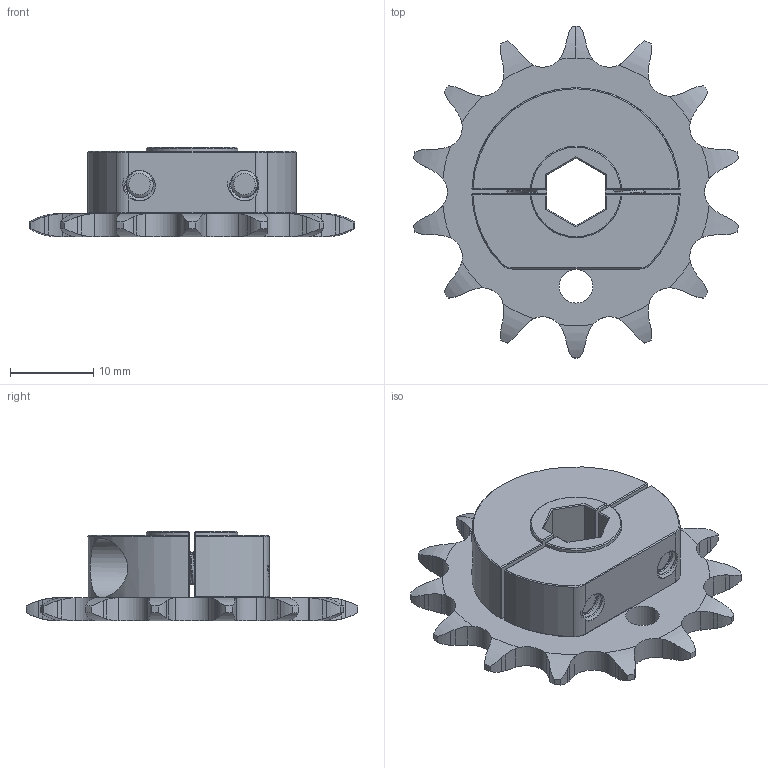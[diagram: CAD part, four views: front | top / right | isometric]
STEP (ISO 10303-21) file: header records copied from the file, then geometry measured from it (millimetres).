
FILE_DESCRIPTION (( 'STEP AP203' ), '1' );
FILE_NAME ('3302-4008-0014 assembly.STEP', '2023-05-19T16:02:29', ( '' ), ( '' ), 'SwSTEP 2.0', 'SolidWorks 2016', '' );
FILE_SCHEMA (( 'CONFIG_CONTROL_DESIGN' ));
Length unit declared in the file: millimetre
Products named in the file (4): 3302-4008-0014 Clamp_2302K82; 3302-4008-0014 assembly; 3302-4008-0014 Sprocket_2302K82; 2800-0004-0012_90128A207
Assembly tree (4 placements, depth 2):
  3302-4008-0014 assembly
    3302-4008-0014 Sprocket_2302K82
    2800-0004-0012_90128A207  x2
    3302-4008-0014 Clamp_2302K82
Bounding box: 39.02 x 39.85 x 10.8 mm (x, y, z)
Volume: 5087.1 mm3; surface area: 5039.2 mm2
Topology: 4 solids, 4 shells, 559 faces, 1550 edges, 1001 vertices
Faces by surface type: cylinder 359, plane 121, cone 41, torus 30, bspline 8
Entity records: 22483 total; most frequent: CARTESIAN_POINT 11661, ORIENTED_EDGE 2574, DIRECTION 1765, EDGE_CURVE 1287, VERTEX_POINT 830, AXIS2_PLACEMENT_3D 641, LINE 483, VECTOR 483
